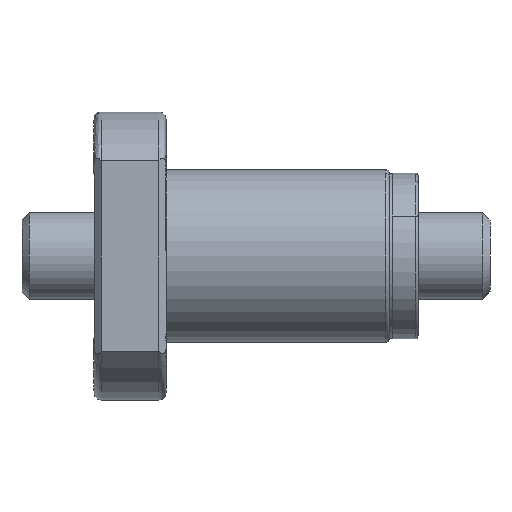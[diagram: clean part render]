
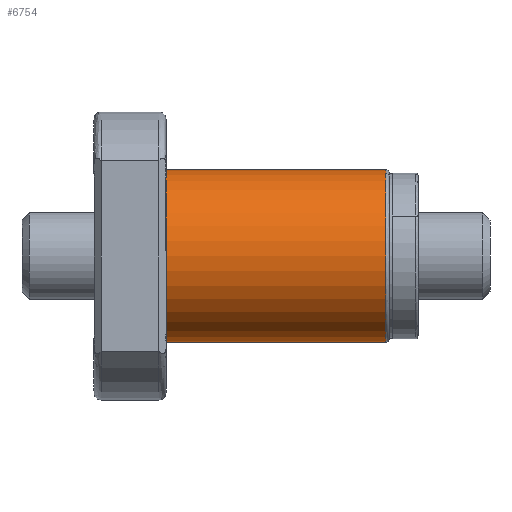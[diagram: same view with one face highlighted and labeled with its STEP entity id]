
A CAD part, front view. The second image highlights one B-rep face of the part: STEP entity #6754.
In plain terms, the highlighted cylindrical face has radius 12 mm (diameter 24 mm), a partial arc.
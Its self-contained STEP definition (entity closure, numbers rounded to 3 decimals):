
#169 = FACE_OUTER_BOUND ( 'NONE', #1899, .T. ) ;
#256 = CARTESIAN_POINT ( 'NONE',  ( 10., 0., 0. ) ) ;
#572 = LINE ( 'NONE', #4200, #7579 ) ;
#1127 = ORIENTED_EDGE ( 'NONE', *, *, #2169, .T. ) ;
#1203 = AXIS2_PLACEMENT_3D ( 'NONE', #3935, #6411, #6382 ) ;
#1229 = CARTESIAN_POINT ( 'NONE',  ( 0., 0., 12. ) ) ;
#1707 = VERTEX_POINT ( 'NONE', #2497 ) ;
#1712 = EDGE_CURVE ( 'NONE', #1707, #5684, #572, .T. ) ;
#1715 = ORIENTED_EDGE ( 'NONE', *, *, #6110, .T. ) ;
#1899 = EDGE_LOOP ( 'NONE', ( #3602, #1127, #1715, #4720 ) ) ;
#1903 = EDGE_CURVE ( 'NONE', #4839, #5684, #5955, .T. ) ;
#2169 = EDGE_CURVE ( 'NONE', #1707, #7056, #3679, .T. ) ;
#2265 = VECTOR ( 'NONE', #6646, 1000. ) ;
#2497 = CARTESIAN_POINT ( 'NONE',  ( 40.5, 0., -12. ) ) ;
#2745 = CARTESIAN_POINT ( 'NONE',  ( 40.5, 0., 0. ) ) ;
#2783 = DIRECTION ( 'NONE',  ( 0., 0., 1. ) ) ;
#3602 = ORIENTED_EDGE ( 'NONE', *, *, #1712, .F. ) ;
#3679 = CIRCLE ( 'NONE', #7862, 12. ) ;
#3935 = CARTESIAN_POINT ( 'NONE',  ( 0., 0., 0. ) ) ;
#3949 = DIRECTION ( 'NONE',  ( -1., 0., 0. ) ) ;
#3968 = CARTESIAN_POINT ( 'NONE',  ( 10., 0., 12. ) ) ;
#4152 = CARTESIAN_POINT ( 'NONE',  ( 10., 0., -12. ) ) ;
#4200 = CARTESIAN_POINT ( 'NONE',  ( 0., 0., -12. ) ) ;
#4695 = LINE ( 'NONE', #1229, #2265 ) ;
#4720 = ORIENTED_EDGE ( 'NONE', *, *, #1903, .T. ) ;
#4839 = VERTEX_POINT ( 'NONE', #3968 ) ;
#5254 = DIRECTION ( 'NONE',  ( 0., 0., 1. ) ) ;
#5555 = CARTESIAN_POINT ( 'NONE',  ( 40.5, 0., 12. ) ) ;
#5684 = VERTEX_POINT ( 'NONE', #4152 ) ;
#5694 = DIRECTION ( 'NONE',  ( 1., 0., 0. ) ) ;
#5955 = CIRCLE ( 'NONE', #6082, 12. ) ;
#6082 = AXIS2_PLACEMENT_3D ( 'NONE', #256, #5694, #2783 ) ;
#6110 = EDGE_CURVE ( 'NONE', #7056, #4839, #4695, .T. ) ;
#6382 = DIRECTION ( 'NONE',  ( 0., 0., 1. ) ) ;
#6411 = DIRECTION ( 'NONE',  ( -1., 0., 0. ) ) ;
#6646 = DIRECTION ( 'NONE',  ( -1., 0., 0. ) ) ;
#6672 = DIRECTION ( 'NONE',  ( -1., 0., 0. ) ) ;
#6754 = ADVANCED_FACE ( 'NONE', ( #169 ), #6881, .T. ) ;
#6881 = CYLINDRICAL_SURFACE ( 'NONE', #1203, 12. ) ;
#7056 = VERTEX_POINT ( 'NONE', #5555 ) ;
#7579 = VECTOR ( 'NONE', #6672, 1000. ) ;
#7862 = AXIS2_PLACEMENT_3D ( 'NONE', #2745, #3949, #5254 ) ;
